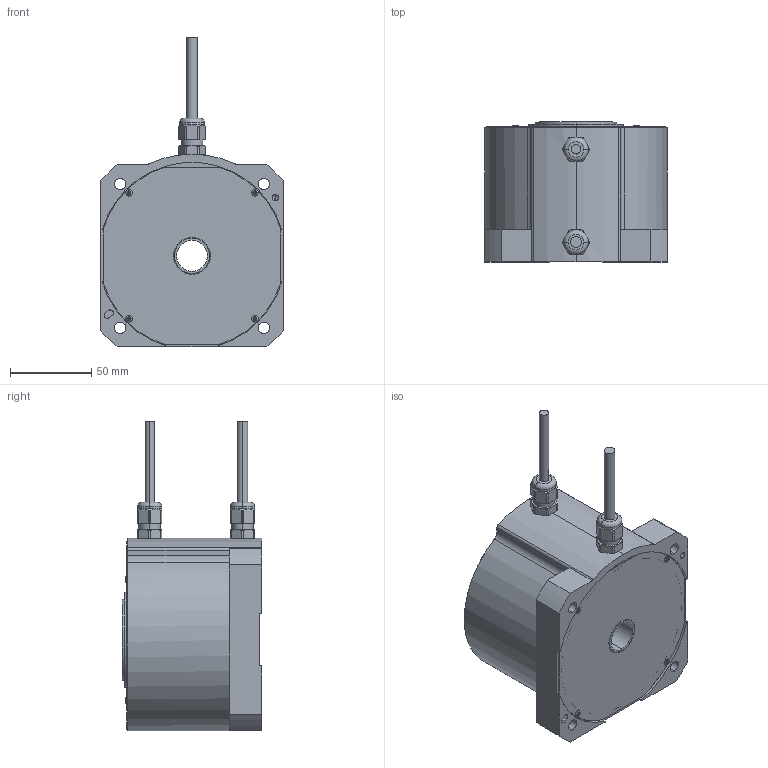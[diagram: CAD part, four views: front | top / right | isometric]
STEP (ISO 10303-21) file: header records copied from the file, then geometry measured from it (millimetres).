
FILE_DESCRIPTION (( 'STEP AP214' ), '1' );
FILE_NAME ('BZA01820.step', '2024-03-27T06:59:07', ( '' ), ( '' ), 'SwSTEP 2.0', 'SolidWorks 2023', '' );
FILE_SCHEMA (( 'AUTOMOTIVE_DESIGN' ));
Length unit declared in the file: millimetre
Products named in the file (1): BZA01820
Bounding box: 112 x 86 x 190.5 mm (x, y, z)
Volume: 275590.3 mm3; surface area: 128891.2 mm2
Topology: 14 solids, 14 shells, 623 faces, 1666 edges, 1071 vertices
Faces by surface type: cylinder 252, plane 182, cone 94, bspline 67, torus 28
Entity records: 22608 total; most frequent: CARTESIAN_POINT 7494, ORIENTED_EDGE 3224, DIRECTION 2947, EDGE_CURVE 1612, AXIS2_PLACEMENT_3D 1165, VERTEX_POINT 1071, EDGE_LOOP 713, ADVANCED_FACE 623
